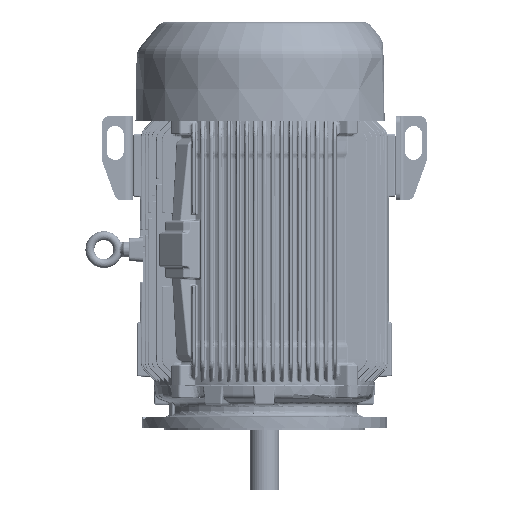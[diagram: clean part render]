
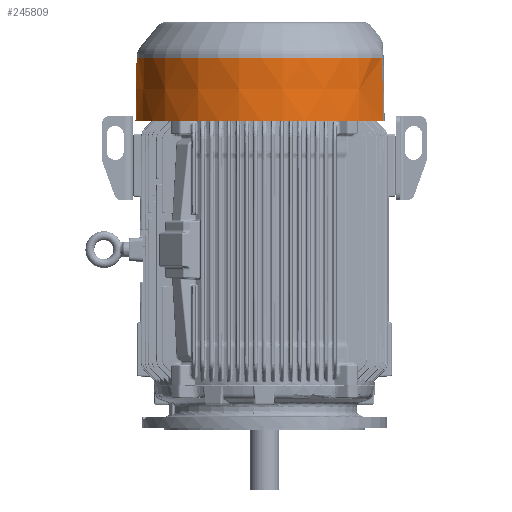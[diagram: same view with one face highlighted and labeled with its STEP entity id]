
A CAD part, left-side view. The second image highlights one B-rep face of the part: STEP entity #245809.
In plain terms, the highlighted conical face has half-angle 1 degrees and reference radius 288.053 mm.
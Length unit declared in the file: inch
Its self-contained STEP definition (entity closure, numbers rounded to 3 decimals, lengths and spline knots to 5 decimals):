
#238860=CARTESIAN_POINT('',(-4.4053,-10.50316,0.));
#238872=CARTESIAN_POINT('',(4.4053,-10.50316,0.));
#238878=CARTESIAN_POINT('',(-4.38861,-10.40404,
-5.60515));
#238879=CARTESIAN_POINT('',(-4.38989,-10.41162,
-5.17622));
#238880=CARTESIAN_POINT('',(-4.3925,-10.42706,
-4.30305));
#238881=CARTESIAN_POINT('',(-4.39649,-10.45079,
-2.96156));
#238882=CARTESIAN_POINT('',(-4.4007,-10.47582,
-1.54612));
#238883=CARTESIAN_POINT('',(-4.40373,-10.49385,
-0.52655));
#238884=CARTESIAN_POINT('',(-4.4053,-10.50316,0.));
#238886=CARTESIAN_POINT('',(-4.38861,-10.40404,
-5.60515));
#238887=CARTESIAN_POINT('',(-4.38884,-10.40394,
-5.60527));
#238888=CARTESIAN_POINT('',(-4.38935,-10.40372,
-5.60548));
#238889=CARTESIAN_POINT('',(-4.39028,-10.40332,
-5.6058));
#238890=CARTESIAN_POINT('',(-4.39142,-10.40283,
-5.60605));
#238891=CARTESIAN_POINT('',(-4.39279,-10.40225,
-5.60622));
#238892=CARTESIAN_POINT('',(-4.3939,-10.40178,
-5.60627));
#238893=CARTESIAN_POINT('',(-4.3945,-10.40153,
-5.60627));
#238895=CARTESIAN_POINT('',(0.,0.,-5.60627));
#238896=DIRECTION('',(0.,0.,-1.));
#238897=DIRECTION('',(-0.389,-0.921,0.));
#238898=AXIS2_PLACEMENT_3D('',#238895,#238896,#238897);
#238900=CARTESIAN_POINT('',(4.38861,-10.40404,
-5.60515));
#238901=CARTESIAN_POINT('',(4.38883,-10.40394,
-5.60528));
#238902=CARTESIAN_POINT('',(4.38935,-10.40372,
-5.60549));
#238903=CARTESIAN_POINT('',(4.39028,-10.40332,
-5.60581));
#238904=CARTESIAN_POINT('',(4.39143,-10.40283,
-5.60606));
#238905=CARTESIAN_POINT('',(4.39278,-10.40226,
-5.60623));
#238906=CARTESIAN_POINT('',(4.39395,-10.40176,
-5.60627));
#238907=CARTESIAN_POINT('',(4.39444,-10.40156,
-5.60627));
#238909=CARTESIAN_POINT('',(4.4053,-10.50316,0.));
#238910=CARTESIAN_POINT('',(4.40402,-10.49554,
-0.43077));
#238911=CARTESIAN_POINT('',(4.40142,-10.48005,
-1.30686));
#238912=CARTESIAN_POINT('',(4.39742,-10.45633,
-2.64795));
#238913=CARTESIAN_POINT('',(4.3932,-10.43125,
-4.0661));
#238914=CARTESIAN_POINT('',(4.39017,-10.4133,
-5.08152));
#238915=CARTESIAN_POINT('',(4.38861,-10.40404,
-5.60515));
#238917=CARTESIAN_POINT('',(0.,0.,0.));
#238918=DIRECTION('',(0.,0.,1.));
#238919=DIRECTION('',(0.387,-0.922,0.));
#238920=AXIS2_PLACEMENT_3D('',#238917,#238918,#238919);
#243614=VERTEX_POINT('',#238860);
#243617=VERTEX_POINT('',#238878);
#243624=VERTEX_POINT('',#238872);
#243625=VERTEX_POINT('',#238915);
#243626=CARTESIAN_POINT('',(-4.3945,-10.40153,
-5.60627));
#243627=CARTESIAN_POINT('',(4.39429,-10.40162,
-5.60627));
#243628=VERTEX_POINT('',#243626);
#243629=VERTEX_POINT('',#243627);
#245794=CARTESIAN_POINT('',(0.,0.,-2.80313));
#245795=DIRECTION('',(0.,0.,1.));
#245796=DIRECTION('',(0.,1.,0.));
#245797=AXIS2_PLACEMENT_3D('',#245794,#245795,#245796);
#245798=CONICAL_SURFACE('',#245797,11.34067,1.);
#245799=ORIENTED_EDGE('',*,*,#245775,.F.);
#245800=ORIENTED_EDGE('',*,*,#245639,.T.);
#245801=ORIENTED_EDGE('',*,*,#245657,.T.);
#245803=ORIENTED_EDGE('',*,*,#245802,.F.);
#245805=ORIENTED_EDGE('',*,*,#245804,.F.);
#245806=ORIENTED_EDGE('',*,*,#245786,.T.);
#245807=EDGE_LOOP('',(#245799,#245800,#245801,#245803,#245805,#245806));
#245808=FACE_OUTER_BOUND('',#245807,.F.);
#245809=ADVANCED_FACE('',(#245808),#245798,.T.);
#238885=B_SPLINE_CURVE_WITH_KNOTS('',3,(#238878,#238879,#238880,#238881,#238882,
#238883,#238884),.UNSPECIFIED.,.F.,.F.,(4,1,1,1,4),(0.,0.25,0.5,0.75,
1.),.UNSPECIFIED.);
#238894=B_SPLINE_CURVE_WITH_KNOTS('',3,(#238886,#238887,#238888,#238889,#238890,
#238891,#238892,#238893),.UNSPECIFIED.,.F.,.F.,(4,1,1,1,1,4),(0.,0.2,0.4,
0.6,0.8,1.),.UNSPECIFIED.);
#238899=CIRCLE('',#238898,11.29174);
#238908=B_SPLINE_CURVE_WITH_KNOTS('',3,(#238900,#238901,#238902,#238903,#238904,
#238905,#238906,#238907),.UNSPECIFIED.,.F.,.F.,(4,1,1,1,1,4),(0.,0.2,0.4,
0.6,0.8,1.),.UNSPECIFIED.);
#238916=B_SPLINE_CURVE_WITH_KNOTS('',3,(#238909,#238910,#238911,#238912,#238913,
#238914,#238915),.UNSPECIFIED.,.F.,.F.,(4,1,1,1,4),(0.,0.25,0.5,0.75,
1.),.UNSPECIFIED.);
#238921=CIRCLE('',#238920,11.3896);
#245639=EDGE_CURVE('',#243617,#243628,#238894,.T.);
#245657=EDGE_CURVE('',#243628,#243629,#238899,.T.);
#245775=EDGE_CURVE('',#243617,#243614,#238885,.T.);
#245786=EDGE_CURVE('',#243624,#243614,#238921,.T.);
#245802=EDGE_CURVE('',#243625,#243629,#238908,.T.);
#245804=EDGE_CURVE('',#243624,#243625,#238916,.T.);
